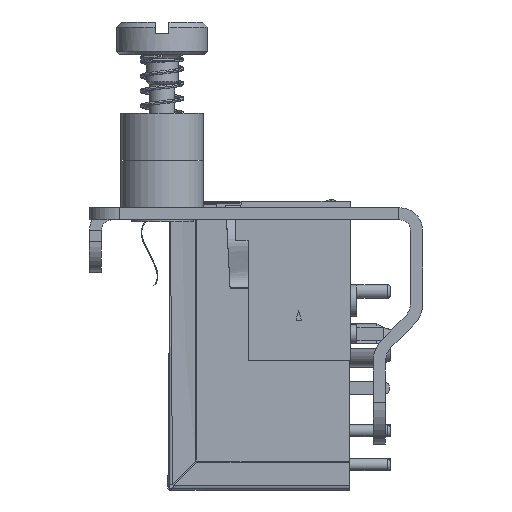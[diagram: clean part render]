
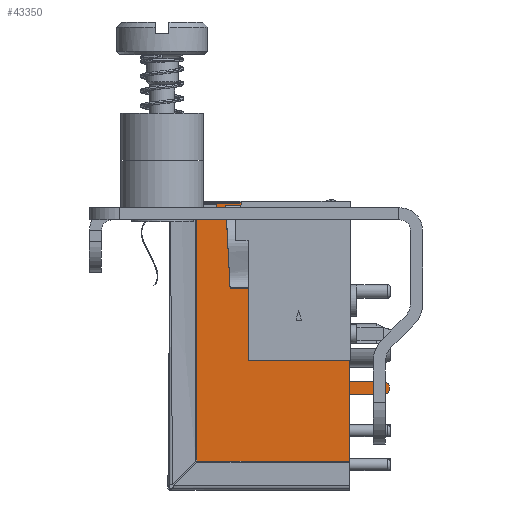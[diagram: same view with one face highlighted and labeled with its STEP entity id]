
A CAD part, left-side view. The second image highlights one B-rep face of the part: STEP entity #43350.
In plain terms, the highlighted planar face has unit normal (-1, 0, 0) as drawn and (1, 0, 0) by its records, which use the part's own axes.
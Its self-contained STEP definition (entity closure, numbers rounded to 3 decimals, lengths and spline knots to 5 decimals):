
#2777=FACE_BOUND('',#9531,.T.);
#2778=FACE_BOUND('',#9532,.T.);
#4604=PLANE('',#46516);
#6932=FACE_OUTER_BOUND('',#9530,.T.);
#9530=EDGE_LOOP('',(#39412,#39413,#39414,#39415,#39416,#39417,#39418,#39419));
#9531=EDGE_LOOP('',(#39420,#39421,#39422,#39423));
#9532=EDGE_LOOP('',(#39424,#39425,#39426,#39427));
#13897=LINE('',#74698,#18444);
#13900=LINE('',#74703,#18447);
#13902=LINE('',#74707,#18449);
#13904=LINE('',#74710,#18451);
#13905=LINE('',#74714,#18452);
#13908=LINE('',#74719,#18455);
#13910=LINE('',#74723,#18457);
#13912=LINE('',#74726,#18459);
#13915=LINE('',#74735,#18462);
#13918=LINE('',#74740,#18465);
#13919=LINE('',#74743,#18466);
#13921=LINE('',#74747,#18468);
#13922=LINE('',#74753,#18469);
#13924=LINE('',#74756,#18471);
#13925=LINE('',#74758,#18472);
#18444=VECTOR('',#56056,0.03937);
#18447=VECTOR('',#56061,0.03937);
#18449=VECTOR('',#56065,0.03937);
#18451=VECTOR('',#56069,0.03937);
#18452=VECTOR('',#56072,0.03937);
#18455=VECTOR('',#56077,0.03937);
#18457=VECTOR('',#56081,0.03937);
#18459=VECTOR('',#56085,0.03937);
#18462=VECTOR('',#56094,0.03937);
#18465=VECTOR('',#56099,0.03937);
#18466=VECTOR('',#56102,0.03937);
#18468=VECTOR('',#56106,0.03937);
#18469=VECTOR('',#56113,0.03937);
#18471=VECTOR('',#56117,0.03937);
#18472=VECTOR('',#56120,0.03937);
#19429=CIRCLE('',#46506,0.01969);
#22836=VERTEX_POINT('',#74696);
#22837=VERTEX_POINT('',#74697);
#22838=VERTEX_POINT('',#74702);
#22839=VERTEX_POINT('',#74706);
#22840=VERTEX_POINT('',#74712);
#22841=VERTEX_POINT('',#74713);
#22842=VERTEX_POINT('',#74718);
#22843=VERTEX_POINT('',#74722);
#22844=VERTEX_POINT('',#74728);
#22845=VERTEX_POINT('',#74729);
#22846=VERTEX_POINT('',#74734);
#22847=VERTEX_POINT('',#74738);
#22848=VERTEX_POINT('',#74742);
#22849=VERTEX_POINT('',#74746);
#22850=VERTEX_POINT('',#74750);
#22851=VERTEX_POINT('',#74752);
#28438=EDGE_CURVE('',#22836,#22837,#13897,.T.);
#28441=EDGE_CURVE('',#22838,#22836,#13900,.T.);
#28443=EDGE_CURVE('',#22839,#22838,#13902,.T.);
#28445=EDGE_CURVE('',#22837,#22839,#13904,.T.);
#28446=EDGE_CURVE('',#22840,#22841,#13905,.T.);
#28449=EDGE_CURVE('',#22842,#22840,#13908,.T.);
#28451=EDGE_CURVE('',#22843,#22842,#13910,.T.);
#28453=EDGE_CURVE('',#22841,#22843,#13912,.T.);
#28454=EDGE_CURVE('',#22844,#22845,#19429,.T.);
#28457=EDGE_CURVE('',#22846,#22844,#13915,.T.);
#28460=EDGE_CURVE('',#22847,#22846,#13918,.T.);
#28461=EDGE_CURVE('',#22848,#22847,#13919,.T.);
#28463=EDGE_CURVE('',#22849,#22848,#13921,.T.);
#28466=EDGE_CURVE('',#22851,#22850,#13922,.T.);
#28468=EDGE_CURVE('',#22845,#22851,#13924,.T.);
#28469=EDGE_CURVE('',#22850,#22849,#13925,.T.);
#39412=ORIENTED_EDGE('',*,*,#28469,.T.);
#39413=ORIENTED_EDGE('',*,*,#28463,.T.);
#39414=ORIENTED_EDGE('',*,*,#28461,.T.);
#39415=ORIENTED_EDGE('',*,*,#28460,.T.);
#39416=ORIENTED_EDGE('',*,*,#28457,.T.);
#39417=ORIENTED_EDGE('',*,*,#28454,.T.);
#39418=ORIENTED_EDGE('',*,*,#28468,.T.);
#39419=ORIENTED_EDGE('',*,*,#28466,.T.);
#39420=ORIENTED_EDGE('',*,*,#28438,.T.);
#39421=ORIENTED_EDGE('',*,*,#28445,.T.);
#39422=ORIENTED_EDGE('',*,*,#28443,.T.);
#39423=ORIENTED_EDGE('',*,*,#28441,.T.);
#39424=ORIENTED_EDGE('',*,*,#28446,.T.);
#39425=ORIENTED_EDGE('',*,*,#28453,.T.);
#39426=ORIENTED_EDGE('',*,*,#28451,.T.);
#39427=ORIENTED_EDGE('',*,*,#28449,.T.);
#43350=ADVANCED_FACE('',(#6932,#2777,#2778),#4604,.T.);
#46506=AXIS2_PLACEMENT_3D('',#74730,#56088,#56089);
#46516=AXIS2_PLACEMENT_3D('',#74759,#56121,#56122);
#56056=DIRECTION('',(0.,-0.052,-0.999));
#56061=DIRECTION('',(0.,1.,0.));
#56065=DIRECTION('',(0.,-0.052,0.999));
#56069=DIRECTION('',(0.,-1.,0.));
#56072=DIRECTION('',(0.,-0.052,0.999));
#56077=DIRECTION('',(0.,-1.,0.));
#56081=DIRECTION('',(0.,-0.052,-0.999));
#56085=DIRECTION('',(0.,1.,0.));
#56088=DIRECTION('center_axis',(1.,0.,0.));
#56089=DIRECTION('ref_axis',(0.,0.,1.));
#56094=DIRECTION('',(0.,1.,0.));
#56099=DIRECTION('',(0.,0.,1.));
#56102=DIRECTION('',(0.,1.,0.));
#56106=DIRECTION('',(0.,0.,-1.));
#56113=DIRECTION('',(0.,0.,1.));
#56117=DIRECTION('',(0.,-1.,0.));
#56120=DIRECTION('',(0.,-1.,0.));
#56121=DIRECTION('center_axis',(1.,0.,0.));
#56122=DIRECTION('ref_axis',(0.,0.,-1.));
#74696=CARTESIAN_POINT('',(0.64449,0.26493,0.99037));
#74697=CARTESIAN_POINT('',(0.64449,0.25213,0.74602));
#74698=CARTESIAN_POINT('',(0.64449,0.25853,0.86819));
#74702=CARTESIAN_POINT('',(0.64449,0.16651,0.99037));
#74703=CARTESIAN_POINT('',(0.64449,0.21572,0.99037));
#74706=CARTESIAN_POINT('',(0.64449,0.17931,0.74602));
#74707=CARTESIAN_POINT('',(0.64449,0.17291,0.86819));
#74710=CARTESIAN_POINT('',(0.64449,0.21572,0.74602));
#74712=CARTESIAN_POINT('',(0.64449,0.35979,0.74602));
#74713=CARTESIAN_POINT('',(0.64449,0.34699,0.99017));
#74714=CARTESIAN_POINT('',(0.64449,0.35339,0.86809));
#74718=CARTESIAN_POINT('',(0.64449,0.43262,0.74602));
#74719=CARTESIAN_POINT('',(0.64449,0.39621,0.74602));
#74722=CARTESIAN_POINT('',(0.64449,0.44542,0.99017));
#74723=CARTESIAN_POINT('',(0.64449,0.43902,0.86809));
#74726=CARTESIAN_POINT('',(0.64449,0.39621,0.99017));
#74728=CARTESIAN_POINT('',(0.64449,0.6311,0.42992));
#74729=CARTESIAN_POINT('',(0.64449,0.6311,0.46929));
#74730=CARTESIAN_POINT('Origin',(0.64449,0.6311,0.44961));
#74734=CARTESIAN_POINT('',(0.64449,0.53268,0.42992));
#74735=CARTESIAN_POINT('',(0.64449,0.58189,0.42992));
#74738=CARTESIAN_POINT('',(0.64449,0.53268,0.23451));
#74740=CARTESIAN_POINT('',(0.64449,0.53268,0.33222));
#74742=CARTESIAN_POINT('',(0.64449,0.08091,0.23451));
#74743=CARTESIAN_POINT('',(0.64449,0.30679,0.23451));
#74746=CARTESIAN_POINT('',(0.64449,0.08091,0.99685));
#74747=CARTESIAN_POINT('',(0.64449,0.08091,0.61863));
#74750=CARTESIAN_POINT('',(0.64449,0.53268,0.99685));
#74752=CARTESIAN_POINT('',(0.64449,0.53268,0.46929));
#74753=CARTESIAN_POINT('',(0.64449,0.53268,0.73602));
#74756=CARTESIAN_POINT('',(0.64449,0.58189,0.46929));
#74758=CARTESIAN_POINT('',(0.64449,0.30679,0.99685));
#74759=CARTESIAN_POINT('Origin',(0.64449,0.08091,0.99685));
